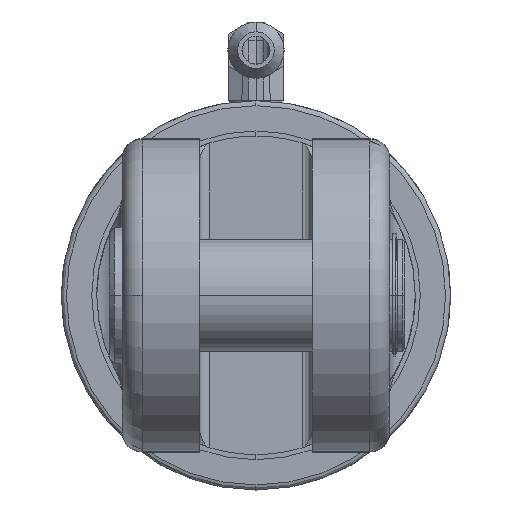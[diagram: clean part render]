
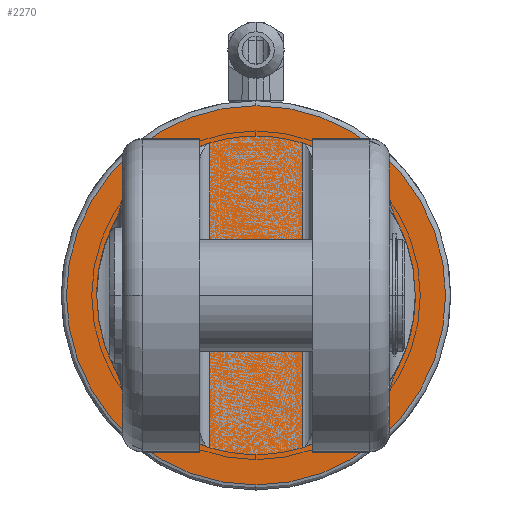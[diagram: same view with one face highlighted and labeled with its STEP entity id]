
A CAD part, left-side view. The second image highlights one B-rep face of the part: STEP entity #2270.
In plain terms, the highlighted planar face has unit normal (-1, 0, 0).
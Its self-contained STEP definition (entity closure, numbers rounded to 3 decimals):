
#63 = EDGE_CURVE ( 'NONE', #5265, #7623, #5346, .T. ) ;
#115 = EDGE_LOOP ( 'NONE', ( #2060, #4154 ) ) ;
#880 = EDGE_CURVE ( 'NONE', #7623, #5265, #7472, .T. ) ;
#1368 = DIRECTION ( 'NONE',  ( 0., 0., 1. ) ) ;
#2060 = ORIENTED_EDGE ( 'NONE', *, *, #63, .F. ) ;
#2270 = ADVANCED_FACE ( 'NONE', ( #7726 ), #7364, .T. ) ;
#2845 = CARTESIAN_POINT ( 'NONE',  ( -705.5, 0., 37.453 ) ) ;
#3128 = DIRECTION ( 'NONE',  ( 0., 0., 1. ) ) ;
#3244 = CARTESIAN_POINT ( 'NONE',  ( -705.5, 37.5, -0.047 ) ) ;
#3300 = DIRECTION ( 'NONE',  ( -1., 0., 0. ) ) ;
#3403 = DIRECTION ( 'NONE',  ( 1., 0., 0. ) ) ;
#3843 = CARTESIAN_POINT ( 'NONE',  ( -705.5, 0., -0.047 ) ) ;
#3854 = CARTESIAN_POINT ( 'NONE',  ( -705.5, 0., -37.547 ) ) ;
#4016 = AXIS2_PLACEMENT_3D ( 'NONE', #3843, #7932, #3128 ) ;
#4154 = ORIENTED_EDGE ( 'NONE', *, *, #880, .F. ) ;
#5265 = VERTEX_POINT ( 'NONE', #2845 ) ;
#5346 = CIRCLE ( 'NONE', #8417, 37.5 ) ;
#7364 = PLANE ( 'NONE',  #8562 ) ;
#7472 = CIRCLE ( 'NONE', #4016, 37.5 ) ;
#7623 = VERTEX_POINT ( 'NONE', #3854 ) ;
#7726 = FACE_OUTER_BOUND ( 'NONE', #115, .T. ) ;
#7932 = DIRECTION ( 'NONE',  ( 1., 0., 0. ) ) ;
#8417 = AXIS2_PLACEMENT_3D ( 'NONE', #8953, #3403, #1368 ) ;
#8562 = AXIS2_PLACEMENT_3D ( 'NONE', #3244, #3300, #8781 ) ;
#8781 = DIRECTION ( 'NONE',  ( 0., 0., -1. ) ) ;
#8953 = CARTESIAN_POINT ( 'NONE',  ( -705.5, 0., -0.047 ) ) ;
